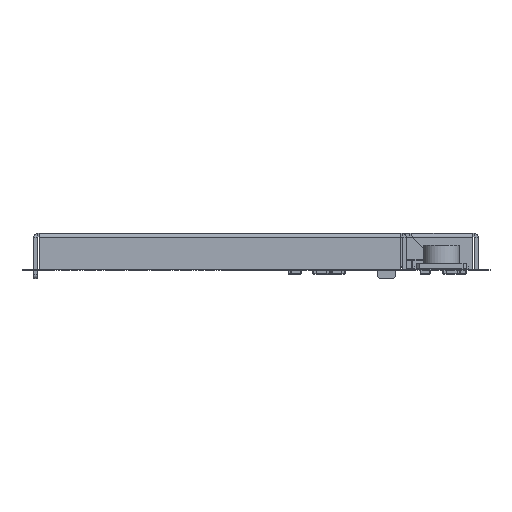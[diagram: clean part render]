
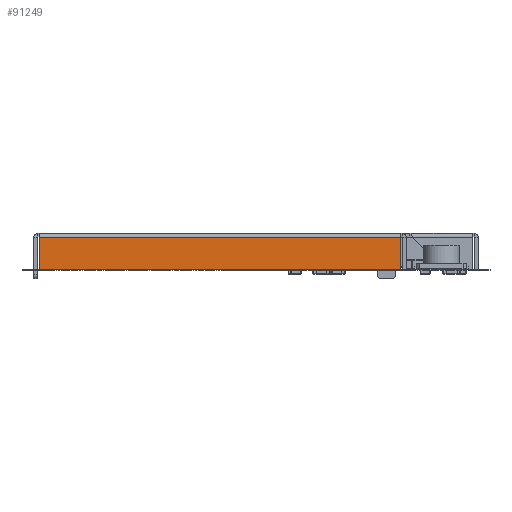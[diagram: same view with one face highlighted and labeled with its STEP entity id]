
A CAD part, front view. The second image highlights one B-rep face of the part: STEP entity #91249.
In plain terms, the highlighted planar face has unit normal (0, -1, 0).
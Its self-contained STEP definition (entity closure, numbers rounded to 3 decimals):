
#88389 = CYLINDRICAL_SURFACE('',#88390,0.22);
#88390 = AXIS2_PLACEMENT_3D('',#88391,#88392,#88393);
#88391 = CARTESIAN_POINT('',(18.101,-6.88,-0.22));
#88392 = DIRECTION('',(-1.,0.,0.));
#88393 = DIRECTION('',(0.,0.,1.));
#90852 = VERTEX_POINT('',#90853);
#90853 = CARTESIAN_POINT('',(-12.05,-7.1,-0.22));
#90867 = PLANE('',#90868);
#90868 = AXIS2_PLACEMENT_3D('',#90869,#90870,#90871);
#90869 = CARTESIAN_POINT('',(-12.05,-7.1,-2.));
#90870 = DIRECTION('',(1.,0.,0.));
#90871 = DIRECTION('',(0.,0.,-1.));
#90934 = VERTEX_POINT('',#90935);
#90935 = CARTESIAN_POINT('',(8.05,-7.1,-0.22));
#90976 = PLANE('',#90977);
#90977 = AXIS2_PLACEMENT_3D('',#90978,#90979,#90980);
#90978 = CARTESIAN_POINT('',(8.05,-7.1,-0.2));
#90979 = DIRECTION('',(-1.,0.,0.));
#90980 = DIRECTION('',(0.,0.,1.));
#91050 = EDGE_CURVE('',#90852,#90934,#91051,.T.);
#91051 = SURFACE_CURVE('',#91052,(#91056,#91062),.PCURVE_S1.);
#91052 = LINE('',#91053,#91054);
#91053 = CARTESIAN_POINT('',(0.,-7.1,-0.22));
#91054 = VECTOR('',#91055,1.);
#91055 = DIRECTION('',(1.,0.,0.));
#91056 = PCURVE('',#88389,#91057);
#91057 = DEFINITIONAL_REPRESENTATION('',(#91058),#91061);
#91058 = B_SPLINE_CURVE_WITH_KNOTS('',1,(#91059,#91060),.UNSPECIFIED.,
  .F.,.F.,(2,2),(-12.05,8.05),.PIECEWISE_BEZIER_KNOTS.);
#91059 = CARTESIAN_POINT('',(4.712,30.151));
#91060 = CARTESIAN_POINT('',(4.712,10.051));
#91061 = ( GEOMETRIC_REPRESENTATION_CONTEXT(2) 
PARAMETRIC_REPRESENTATION_CONTEXT() REPRESENTATION_CONTEXT('2D SPACE',''
  ) );
#91062 = PCURVE('',#91063,#91068);
#91063 = PLANE('',#91064);
#91064 = AXIS2_PLACEMENT_3D('',#91065,#91066,#91067);
#91065 = CARTESIAN_POINT('',(0.,-7.1,0.));
#91066 = DIRECTION('',(0.,1.,0.));
#91067 = DIRECTION('',(0.,0.,1.));
#91068 = DEFINITIONAL_REPRESENTATION('',(#91069),#91073);
#91069 = LINE('',#91070,#91071);
#91070 = CARTESIAN_POINT('',(-0.22,0.));
#91071 = VECTOR('',#91072,1.);
#91072 = DIRECTION('',(0.,1.));
#91073 = ( GEOMETRIC_REPRESENTATION_CONTEXT(2) 
PARAMETRIC_REPRESENTATION_CONTEXT() REPRESENTATION_CONTEXT('2D SPACE',''
  ) );
#91090 = PLANE('',#91091);
#91091 = AXIS2_PLACEMENT_3D('',#91092,#91093,#91094);
#91092 = CARTESIAN_POINT('',(8.05,-7.1,-2.));
#91093 = DIRECTION('',(0.,0.,1.));
#91094 = DIRECTION('',(0.,-1.,0.));
#91110 = VERTEX_POINT('',#91111);
#91111 = CARTESIAN_POINT('',(8.05,-7.1,-2.));
#91132 = EDGE_CURVE('',#91133,#91110,#91135,.T.);
#91133 = VERTEX_POINT('',#91134);
#91134 = CARTESIAN_POINT('',(-12.05,-7.1,-2.));
#91135 = SURFACE_CURVE('',#91136,(#91140,#91147),.PCURVE_S1.);
#91136 = LINE('',#91137,#91138);
#91137 = CARTESIAN_POINT('',(8.05,-7.1,-2.));
#91138 = VECTOR('',#91139,1.);
#91139 = DIRECTION('',(1.,0.,0.));
#91140 = PCURVE('',#91090,#91141);
#91141 = DEFINITIONAL_REPRESENTATION('',(#91142),#91146);
#91142 = LINE('',#91143,#91144);
#91143 = CARTESIAN_POINT('',(0.,0.));
#91144 = VECTOR('',#91145,1.);
#91145 = DIRECTION('',(0.,1.));
#91146 = ( GEOMETRIC_REPRESENTATION_CONTEXT(2) 
PARAMETRIC_REPRESENTATION_CONTEXT() REPRESENTATION_CONTEXT('2D SPACE',''
  ) );
#91147 = PCURVE('',#91063,#91148);
#91148 = DEFINITIONAL_REPRESENTATION('',(#91149),#91153);
#91149 = LINE('',#91150,#91151);
#91150 = CARTESIAN_POINT('',(-2.,8.05));
#91151 = VECTOR('',#91152,1.);
#91152 = DIRECTION('',(0.,1.));
#91153 = ( GEOMETRIC_REPRESENTATION_CONTEXT(2) 
PARAMETRIC_REPRESENTATION_CONTEXT() REPRESENTATION_CONTEXT('2D SPACE',''
  ) );
#91227 = EDGE_CURVE('',#91110,#90934,#91228,.T.);
#91228 = SURFACE_CURVE('',#91229,(#91233,#91240),.PCURVE_S1.);
#91229 = LINE('',#91230,#91231);
#91230 = CARTESIAN_POINT('',(8.05,-7.1,-0.2));
#91231 = VECTOR('',#91232,1.);
#91232 = DIRECTION('',(0.,0.,1.));
#91233 = PCURVE('',#90976,#91234);
#91234 = DEFINITIONAL_REPRESENTATION('',(#91235),#91239);
#91235 = LINE('',#91236,#91237);
#91236 = CARTESIAN_POINT('',(0.,0.));
#91237 = VECTOR('',#91238,1.);
#91238 = DIRECTION('',(1.,0.));
#91239 = ( GEOMETRIC_REPRESENTATION_CONTEXT(2) 
PARAMETRIC_REPRESENTATION_CONTEXT() REPRESENTATION_CONTEXT('2D SPACE',''
  ) );
#91240 = PCURVE('',#91063,#91241);
#91241 = DEFINITIONAL_REPRESENTATION('',(#91242),#91246);
#91242 = LINE('',#91243,#91244);
#91243 = CARTESIAN_POINT('',(-0.2,8.05));
#91244 = VECTOR('',#91245,1.);
#91245 = DIRECTION('',(1.,0.));
#91246 = ( GEOMETRIC_REPRESENTATION_CONTEXT(2) 
PARAMETRIC_REPRESENTATION_CONTEXT() REPRESENTATION_CONTEXT('2D SPACE',''
  ) );
#91249 = ADVANCED_FACE('',(#91250),#91063,.F.);
#91250 = FACE_BOUND('',#91251,.T.);
#91251 = EDGE_LOOP('',(#91252,#91253,#91274,#91275));
#91252 = ORIENTED_EDGE('',*,*,#91050,.F.);
#91253 = ORIENTED_EDGE('',*,*,#91254,.T.);
#91254 = EDGE_CURVE('',#90852,#91133,#91255,.T.);
#91255 = SURFACE_CURVE('',#91256,(#91260,#91267),.PCURVE_S1.);
#91256 = LINE('',#91257,#91258);
#91257 = CARTESIAN_POINT('',(-12.05,-7.1,-2.));
#91258 = VECTOR('',#91259,1.);
#91259 = DIRECTION('',(0.,0.,-1.));
#91260 = PCURVE('',#91063,#91261);
#91261 = DEFINITIONAL_REPRESENTATION('',(#91262),#91266);
#91262 = LINE('',#91263,#91264);
#91263 = CARTESIAN_POINT('',(-2.,-12.05));
#91264 = VECTOR('',#91265,1.);
#91265 = DIRECTION('',(-1.,0.));
#91266 = ( GEOMETRIC_REPRESENTATION_CONTEXT(2) 
PARAMETRIC_REPRESENTATION_CONTEXT() REPRESENTATION_CONTEXT('2D SPACE',''
  ) );
#91267 = PCURVE('',#90867,#91268);
#91268 = DEFINITIONAL_REPRESENTATION('',(#91269),#91273);
#91269 = LINE('',#91270,#91271);
#91270 = CARTESIAN_POINT('',(0.,0.));
#91271 = VECTOR('',#91272,1.);
#91272 = DIRECTION('',(1.,0.));
#91273 = ( GEOMETRIC_REPRESENTATION_CONTEXT(2) 
PARAMETRIC_REPRESENTATION_CONTEXT() REPRESENTATION_CONTEXT('2D SPACE',''
  ) );
#91274 = ORIENTED_EDGE('',*,*,#91132,.T.);
#91275 = ORIENTED_EDGE('',*,*,#91227,.T.);
